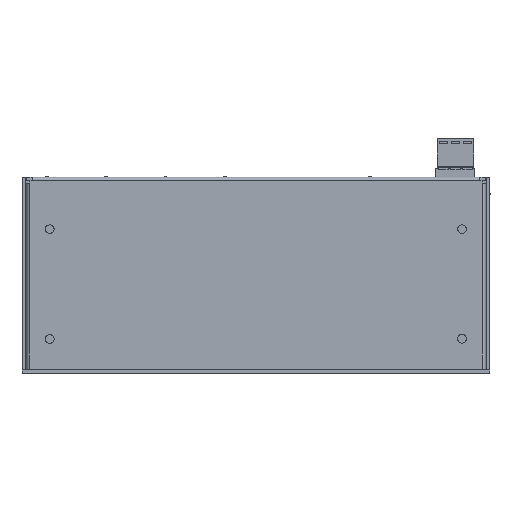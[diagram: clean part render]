
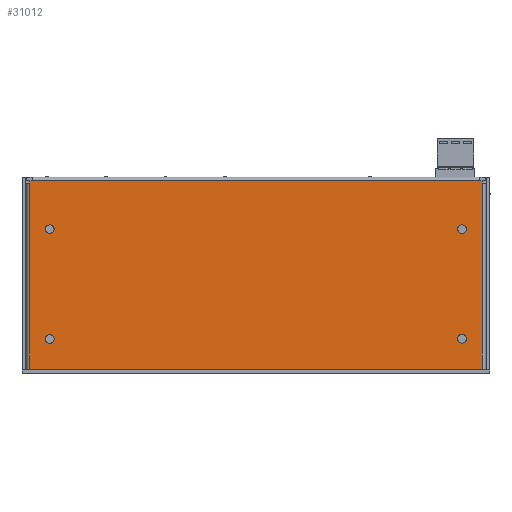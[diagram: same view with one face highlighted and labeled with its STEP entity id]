
A CAD part, front view. The second image highlights one B-rep face of the part: STEP entity #31012.
In plain terms, the highlighted planar face has unit normal (0, -1, 0).
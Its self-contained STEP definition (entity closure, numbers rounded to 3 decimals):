
#1317=FACE_BOUND('',#4502,.T.);
#1318=FACE_BOUND('',#4503,.T.);
#1319=FACE_BOUND('',#4504,.T.);
#1320=FACE_BOUND('',#4505,.T.);
#1507=PLANE('',#33044);
#2777=FACE_OUTER_BOUND('',#4501,.T.);
#4501=EDGE_LOOP('',(#22159,#22160,#22161,#22162,#22163,#22164,#22165,#22166));
#4502=EDGE_LOOP('',(#22167));
#4503=EDGE_LOOP('',(#22168));
#4504=EDGE_LOOP('',(#22169));
#4505=EDGE_LOOP('',(#22170));
#6288=CIRCLE('',#33045,1.25);
#6289=CIRCLE('',#33046,1.25);
#6290=CIRCLE('',#33047,1.25);
#6291=CIRCLE('',#33048,1.25);
#7306=LINE('',#46164,#10739);
#7314=LINE('',#46189,#10747);
#7326=LINE('',#46221,#10759);
#7341=LINE('',#46257,#10774);
#7344=LINE('',#46263,#10777);
#7348=LINE('',#46269,#10781);
#7349=LINE('',#46271,#10782);
#7350=LINE('',#46272,#10783);
#10739=VECTOR('',#35991,10.);
#10747=VECTOR('',#36021,10.);
#10759=VECTOR('',#36057,10.);
#10774=VECTOR('',#36096,10.);
#10777=VECTOR('',#36101,10.);
#10781=VECTOR('',#36107,10.);
#10782=VECTOR('',#36110,10.);
#10783=VECTOR('',#36111,10.);
#14226=VERTEX_POINT('',#46161);
#14227=VERTEX_POINT('',#46163);
#14232=VERTEX_POINT('',#46186);
#14233=VERTEX_POINT('',#46188);
#14240=VERTEX_POINT('',#46218);
#14241=VERTEX_POINT('',#46220);
#14250=VERTEX_POINT('',#46256);
#14252=VERTEX_POINT('',#46262);
#14254=VERTEX_POINT('',#46273);
#14255=VERTEX_POINT('',#46275);
#14256=VERTEX_POINT('',#46277);
#14257=VERTEX_POINT('',#46279);
#17262=EDGE_CURVE('',#14227,#14226,#7306,.T.);
#17274=EDGE_CURVE('',#14233,#14232,#7314,.T.);
#17290=EDGE_CURVE('',#14241,#14240,#7326,.T.);
#17308=EDGE_CURVE('',#14250,#14227,#7341,.T.);
#17311=EDGE_CURVE('',#14252,#14241,#7344,.T.);
#17315=EDGE_CURVE('',#14226,#14252,#7348,.T.);
#17316=EDGE_CURVE('',#14240,#14233,#7349,.T.);
#17317=EDGE_CURVE('',#14232,#14250,#7350,.T.);
#17318=EDGE_CURVE('',#14254,#14254,#6288,.T.);
#17319=EDGE_CURVE('',#14255,#14255,#6289,.T.);
#17320=EDGE_CURVE('',#14256,#14256,#6290,.T.);
#17321=EDGE_CURVE('',#14257,#14257,#6291,.T.);
#22159=ORIENTED_EDGE('',*,*,#17308,.T.);
#22160=ORIENTED_EDGE('',*,*,#17262,.T.);
#22161=ORIENTED_EDGE('',*,*,#17315,.T.);
#22162=ORIENTED_EDGE('',*,*,#17311,.T.);
#22163=ORIENTED_EDGE('',*,*,#17290,.T.);
#22164=ORIENTED_EDGE('',*,*,#17316,.T.);
#22165=ORIENTED_EDGE('',*,*,#17274,.T.);
#22166=ORIENTED_EDGE('',*,*,#17317,.T.);
#22167=ORIENTED_EDGE('',*,*,#17318,.T.);
#22168=ORIENTED_EDGE('',*,*,#17319,.T.);
#22169=ORIENTED_EDGE('',*,*,#17320,.T.);
#22170=ORIENTED_EDGE('',*,*,#17321,.T.);
#31012=ADVANCED_FACE('',(#2777,#1317,#1318,#1319,#1320),#1507,.F.);
#33044=AXIS2_PLACEMENT_3D('',#46270,#36108,#36109);
#33045=AXIS2_PLACEMENT_3D('',#46274,#36112,#36113);
#33046=AXIS2_PLACEMENT_3D('',#46276,#36114,#36115);
#33047=AXIS2_PLACEMENT_3D('',#46278,#36116,#36117);
#33048=AXIS2_PLACEMENT_3D('',#46280,#36118,#36119);
#35991=DIRECTION('',(-1.,0.,0.));
#36021=DIRECTION('',(0.,0.,1.));
#36057=DIRECTION('',(0.,0.,-1.));
#36096=DIRECTION('',(-1.,0.,0.));
#36101=DIRECTION('',(0.,0.,-1.));
#36107=DIRECTION('',(-1.,0.,0.));
#36108=DIRECTION('center_axis',(0.,1.,0.));
#36109=DIRECTION('ref_axis',(1.,0.,0.));
#36110=DIRECTION('',(1.,0.,0.));
#36111=DIRECTION('',(0.,0.,1.));
#36112=DIRECTION('center_axis',(0.,1.,0.));
#36113=DIRECTION('ref_axis',(1.,0.,0.));
#36114=DIRECTION('center_axis',(0.,1.,0.));
#36115=DIRECTION('ref_axis',(1.,0.,0.));
#36116=DIRECTION('center_axis',(0.,1.,0.));
#36117=DIRECTION('ref_axis',(1.,0.,0.));
#36118=DIRECTION('center_axis',(0.,1.,0.));
#36119=DIRECTION('ref_axis',(1.,0.,0.));
#46161=CARTESIAN_POINT('',(-0.628,-5.46,49.89));
#46163=CARTESIAN_POINT('',(127.538,-5.46,49.89));
#46164=CARTESIAN_POINT('',(31.065,-5.46,49.89));
#46186=CARTESIAN_POINT('',(128.235,-5.46,49.193));
#46188=CARTESIAN_POINT('',(128.235,-5.46,-4.1));
#46189=CARTESIAN_POINT('',(128.235,-5.46,36.645));
#46218=CARTESIAN_POINT('',(-1.325,-5.46,-4.1));
#46220=CARTESIAN_POINT('',(-1.325,-5.46,49.193));
#46221=CARTESIAN_POINT('',(-1.325,-5.46,9.65));
#46256=CARTESIAN_POINT('',(128.235,-5.46,49.89));
#46257=CARTESIAN_POINT('',(31.065,-5.46,49.89));
#46262=CARTESIAN_POINT('',(-1.325,-5.46,49.89));
#46263=CARTESIAN_POINT('',(-1.325,-5.46,9.65));
#46269=CARTESIAN_POINT('',(31.065,-5.46,49.89));
#46270=CARTESIAN_POINT('Origin',(63.455,-5.46,23.4));
#46271=CARTESIAN_POINT('',(-2.335,-5.46,-4.1));
#46272=CARTESIAN_POINT('',(128.235,-5.46,36.645));
#46273=CARTESIAN_POINT('',(121.25,-5.46,36.));
#46274=CARTESIAN_POINT('Origin',(122.5,-5.46,36.));
#46275=CARTESIAN_POINT('',(3.11,-5.46,36.));
#46276=CARTESIAN_POINT('Origin',(4.36,-5.46,36.));
#46277=CARTESIAN_POINT('',(3.11,-5.46,4.5));
#46278=CARTESIAN_POINT('Origin',(4.36,-5.46,4.5));
#46279=CARTESIAN_POINT('',(121.25,-5.46,4.585));
#46280=CARTESIAN_POINT('Origin',(122.5,-5.46,4.585));
